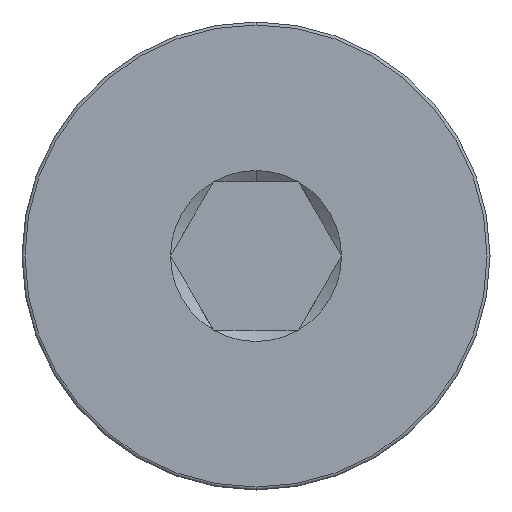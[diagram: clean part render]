
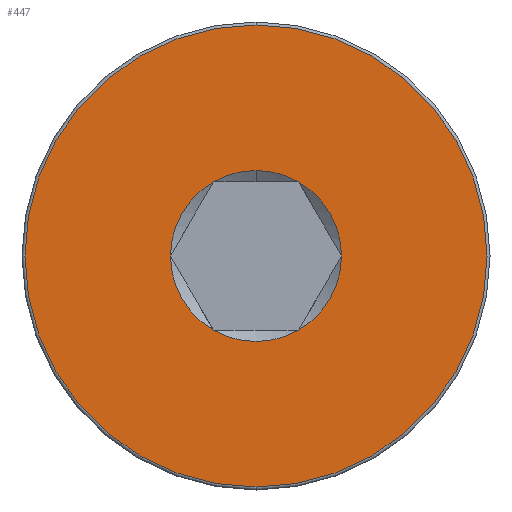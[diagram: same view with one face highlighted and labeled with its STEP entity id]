
A CAD part, left-side view. The second image highlights one B-rep face of the part: STEP entity #447.
In plain terms, the highlighted planar face has unit normal (-1, 0, 0).
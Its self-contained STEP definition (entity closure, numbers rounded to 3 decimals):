
#9 = DIRECTION ( 'NONE',  ( 0., 0., -1. ) ) ;
#14 = FACE_BOUND ( 'NONE', #190, .T. ) ;
#17 = EDGE_CURVE ( 'NONE', #38, #186, #206, .T. ) ;
#19 = FACE_OUTER_BOUND ( 'NONE', #207, .T. ) ;
#24 = DIRECTION ( 'NONE',  ( 0., 0., -1. ) ) ;
#38 = VERTEX_POINT ( 'NONE', #446 ) ;
#43 = VERTEX_POINT ( 'NONE', #140 ) ;
#54 = AXIS2_PLACEMENT_3D ( 'NONE', #642, #772, #89 ) ;
#61 = EDGE_CURVE ( 'NONE', #777, #405, #171, .T. ) ;
#82 = DIRECTION ( 'NONE',  ( -1., 0., 0. ) ) ;
#84 = CARTESIAN_POINT ( 'NONE',  ( 0., 0., 0. ) ) ;
#89 = DIRECTION ( 'NONE',  ( 0., 0., 1. ) ) ;
#98 = DIRECTION ( 'NONE',  ( 0., 0., -1. ) ) ;
#105 = AXIS2_PLACEMENT_3D ( 'NONE', #382, #181, #9 ) ;
#107 = ORIENTED_EDGE ( 'NONE', *, *, #61, .T. ) ;
#110 = DIRECTION ( 'NONE',  ( 1., 0., 0. ) ) ;
#115 = VERTEX_POINT ( 'NONE', #212 ) ;
#117 = EDGE_CURVE ( 'NONE', #43, #363, #342, .T. ) ;
#132 = CIRCLE ( 'NONE', #54, 7.8 ) ;
#137 = EDGE_CURVE ( 'NONE', #638, #705, #428, .T. ) ;
#140 = CARTESIAN_POINT ( 'NONE',  ( 0., -2.887, 0. ) ) ;
#141 = CARTESIAN_POINT ( 'NONE',  ( 0., 0., 0. ) ) ;
#149 = DIRECTION ( 'NONE',  ( 1., 0., 0. ) ) ;
#150 = DIRECTION ( 'NONE',  ( 1., 0., 0. ) ) ;
#171 = CIRCLE ( 'NONE', #105, 2.887 ) ;
#174 = DIRECTION ( 'NONE',  ( 0., 0., -1. ) ) ;
#181 = DIRECTION ( 'NONE',  ( 1., 0., 0. ) ) ;
#186 = VERTEX_POINT ( 'NONE', #429 ) ;
#190 = EDGE_LOOP ( 'NONE', ( #107, #395, #263, #347, #476, #534, #783 ) ) ;
#195 = DIRECTION ( 'NONE',  ( 0., 0., 1. ) ) ;
#199 = EDGE_CURVE ( 'NONE', #363, #115, #472, .T. ) ;
#206 = CIRCLE ( 'NONE', #315, 7.8 ) ;
#207 = EDGE_LOOP ( 'NONE', ( #766, #785 ) ) ;
#211 = CIRCLE ( 'NONE', #503, 2.887 ) ;
#212 = CARTESIAN_POINT ( 'NONE',  ( 0., 1.443, -2.5 ) ) ;
#232 = DIRECTION ( 'NONE',  ( 1., 0., 0. ) ) ;
#233 = AXIS2_PLACEMENT_3D ( 'NONE', #385, #389, #24 ) ;
#246 = DIRECTION ( 'NONE',  ( 0., 0., -1. ) ) ;
#263 = ORIENTED_EDGE ( 'NONE', *, *, #137, .T. ) ;
#311 = DIRECTION ( 'NONE',  ( 0., 0., -1. ) ) ;
#315 = AXIS2_PLACEMENT_3D ( 'NONE', #320, #568, #195 ) ;
#320 = CARTESIAN_POINT ( 'NONE',  ( 0., 0., 0. ) ) ;
#326 = CARTESIAN_POINT ( 'NONE',  ( 0., -1.443, -2.5 ) ) ;
#342 = CIRCLE ( 'NONE', #233, 2.887 ) ;
#347 = ORIENTED_EDGE ( 'NONE', *, *, #507, .T. ) ;
#363 = VERTEX_POINT ( 'NONE', #326 ) ;
#380 = CARTESIAN_POINT ( 'NONE',  ( 0., 2.887, 0. ) ) ;
#382 = CARTESIAN_POINT ( 'NONE',  ( 0., 0., 0. ) ) ;
#385 = CARTESIAN_POINT ( 'NONE',  ( 0., 0., 0. ) ) ;
#389 = DIRECTION ( 'NONE',  ( 1., 0., 0. ) ) ;
#395 = ORIENTED_EDGE ( 'NONE', *, *, #776, .T. ) ;
#405 = VERTEX_POINT ( 'NONE', #572 ) ;
#428 = CIRCLE ( 'NONE', #730, 2.887 ) ;
#429 = CARTESIAN_POINT ( 'NONE',  ( 0., 0., 7.8 ) ) ;
#443 = AXIS2_PLACEMENT_3D ( 'NONE', #480, #110, #311 ) ;
#446 = CARTESIAN_POINT ( 'NONE',  ( 0., 0., -7.8 ) ) ;
#447 = ADVANCED_FACE ( 'NONE', ( #14, #19 ), #690, .T. ) ;
#472 = CIRCLE ( 'NONE', #443, 2.887 ) ;
#476 = ORIENTED_EDGE ( 'NONE', *, *, #117, .T. ) ;
#480 = CARTESIAN_POINT ( 'NONE',  ( 0., 0., 0. ) ) ;
#503 = AXIS2_PLACEMENT_3D ( 'NONE', #784, #232, #174 ) ;
#507 = EDGE_CURVE ( 'NONE', #705, #43, #689, .T. ) ;
#534 = ORIENTED_EDGE ( 'NONE', *, *, #199, .T. ) ;
#538 = CARTESIAN_POINT ( 'NONE',  ( 0., 0., 2.887 ) ) ;
#567 = CIRCLE ( 'NONE', #667, 2.887 ) ;
#568 = DIRECTION ( 'NONE',  ( -1., 0., 0. ) ) ;
#570 = DIRECTION ( 'NONE',  ( 0., 0., -1. ) ) ;
#571 = DIRECTION ( 'NONE',  ( 1., 0., 0. ) ) ;
#572 = CARTESIAN_POINT ( 'NONE',  ( 0., 1.443, 2.5 ) ) ;
#596 = CARTESIAN_POINT ( 'NONE',  ( 0., -1.443, 2.5 ) ) ;
#609 = AXIS2_PLACEMENT_3D ( 'NONE', #636, #82, #625 ) ;
#625 = DIRECTION ( 'NONE',  ( 0., 0., 1. ) ) ;
#634 = EDGE_CURVE ( 'NONE', #186, #38, #132, .T. ) ;
#636 = CARTESIAN_POINT ( 'NONE',  ( 0., 0., 0. ) ) ;
#638 = VERTEX_POINT ( 'NONE', #538 ) ;
#642 = CARTESIAN_POINT ( 'NONE',  ( 0., 0., 0. ) ) ;
#648 = CARTESIAN_POINT ( 'NONE',  ( 0., 0., 0. ) ) ;
#667 = AXIS2_PLACEMENT_3D ( 'NONE', #141, #571, #246 ) ;
#689 = CIRCLE ( 'NONE', #744, 2.887 ) ;
#690 = PLANE ( 'NONE',  #609 ) ;
#705 = VERTEX_POINT ( 'NONE', #596 ) ;
#730 = AXIS2_PLACEMENT_3D ( 'NONE', #84, #150, #570 ) ;
#744 = AXIS2_PLACEMENT_3D ( 'NONE', #648, #149, #98 ) ;
#761 = EDGE_CURVE ( 'NONE', #115, #777, #211, .T. ) ;
#766 = ORIENTED_EDGE ( 'NONE', *, *, #634, .T. ) ;
#772 = DIRECTION ( 'NONE',  ( -1., 0., 0. ) ) ;
#776 = EDGE_CURVE ( 'NONE', #405, #638, #567, .T. ) ;
#777 = VERTEX_POINT ( 'NONE', #380 ) ;
#783 = ORIENTED_EDGE ( 'NONE', *, *, #761, .T. ) ;
#784 = CARTESIAN_POINT ( 'NONE',  ( 0., 0., 0. ) ) ;
#785 = ORIENTED_EDGE ( 'NONE', *, *, #17, .T. ) ;
